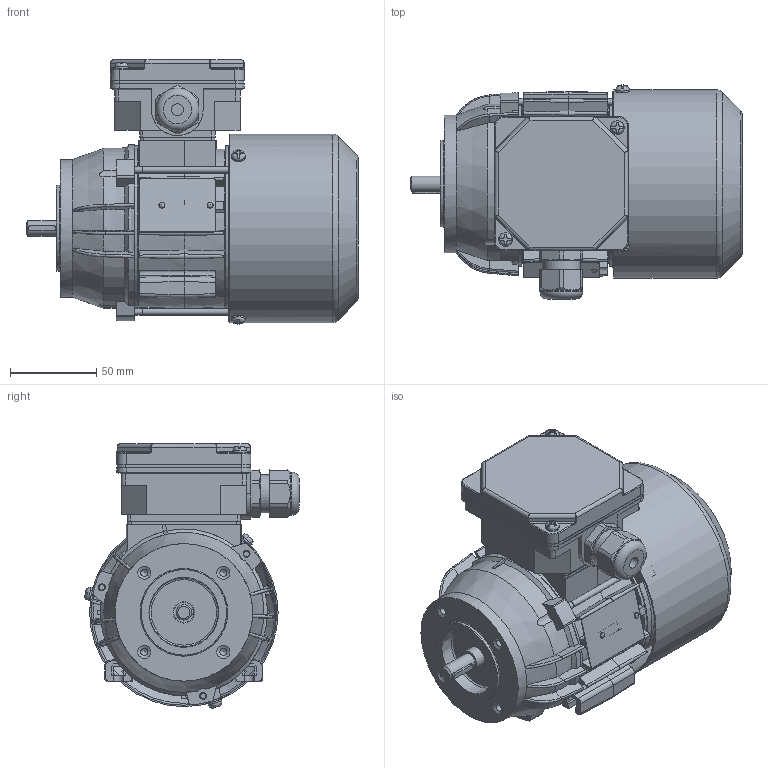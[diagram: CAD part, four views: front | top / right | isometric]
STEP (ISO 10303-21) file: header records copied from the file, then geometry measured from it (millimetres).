
FILE_DESCRIPTION( ( 'Unknown' ), '1' );
FILE_NAME( 'G:/Poczta Tk-1/STP/w.m.56/Sh56/SKh56-B2.stp', 'Unknown', ( 'K. Szlosek' ), ( 'BESEL S.A.' ), 'PSStep 17.0.49', 'Unknown', ' ' );
FILE_SCHEMA( ( 'AUTOMOTIVE_DESIGN { 1 0 10303 214 1 1 1 1 }' ) );
Length unit declared in the file: millimetre
Products named in the file (28): Assem1; K4-2320 Uszczelka nr 1 Sh71,80; K3-9987 kadłub ze stojanem Sh56-B; K3-2193 Tarcza łożyskowa P Sg56-2..; K3-9990 wał Sh56-B; K2-0860 Pokrywka skrzynki zaciskowej; Wpust A3x3x16; K3-2977 Osłona przewietrznika Sg56; K4-2820 Uszczelka nr 2 Sh71,80; Wkręt samogwintujący M4x8; Wkręt samogwintujący M4x16; K2-0879 Przewietrznik Sg56; Nitokołek A 2x6; K1-0533 Tarcza kołnierzowa B14_2 SKg56-..2; K2-0859 Podstawa skrzynki 6-cio zaciskowej; Śruba ściągająca E_M4x75; Tabliczka znamionowa 32x44; Łożysko 6201; Dławnica M20x1,5
Assembly tree (43 placements, depth 2):
  Assem1
    K4-2320 Uszczelka nr 1 Sh71,80
    K3-9987 kadłub ze stojanem Sh56-B
    K3-2193 Tarcza łożyskowa P Sg56-2..
    K3-9990 wał Sh56-B
    K2-0860 Pokrywka skrzynki zaciskowej
    Wpust A3x3x16
    K3-2977 Osłona przewietrznika Sg56
    K4-2820 Uszczelka nr 2 Sh71,80
    Wkręt samogwintujący M4x8  x3
    Wkręt samogwintujący M4x16  x2
    K2-0879 Przewietrznik Sg56
    Nitokołek A 2x6  x2
    K1-0533 Tarcza kołnierzowa B14_2 SKg56-..2
    K2-0859 Podstawa skrzynki 6-cio zaciskowej
    Śruba ściągająca E_M4x75  x3
    Tabliczka znamionowa 32x44
    Łożysko 6201  x2
    Łożysko 6201  x2
    Łożysko 6201  x2
    Łożysko 6201  x2
    Łożysko 6201  x2
    Łożysko 6201  x2
    Łożysko 6201  x2
    Łożysko 6201  x2
    Łożysko 6201  x2
    Łożysko 6201  x2
    Dławnica M20x1,5
Bounding box: 193 x 124.54 x 153.72 mm (x, y, z)
Volume: 388920 mm3; surface area: 294809.8 mm2
Topology: 43 solids, 59 shells, 1764 faces, 4780 edges, 3090 vertices
Faces by surface type: plane 912, cylinder 498, cone 132, torus 96, bspline 92, sphere 34
Full cylindrical faces by diameter (mm): 2 x2, 2.4 x2, 3.242 x3, 3.7 x10, 4 x8, 4.134 x4, 4.5 x4, 4.8 x4, 5 x4, 7 x4, 8 x6, 9 x1, 10.9 x1, 11 x1, 11.5 x1, 11.8 x2, 12 x4, 12.4 x2, 15.5 x1, 16 x1, 16.1 x1, 17 x2, 18.376 x1, 18.38 x1, 18.52 x4, 20 x1, 22.3 x1, 24 x2, 25 x1, 25.48 x4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
Entity records: 72851 total; most frequent: CARTESIAN_POINT 20037, ORIENTED_EDGE 8200, DIRECTION 8110, EDGE_CURVE 4100, AXIS2_PLACEMENT_3D 3027, VERTEX_POINT 2784, LINE 2056, VECTOR 2056
